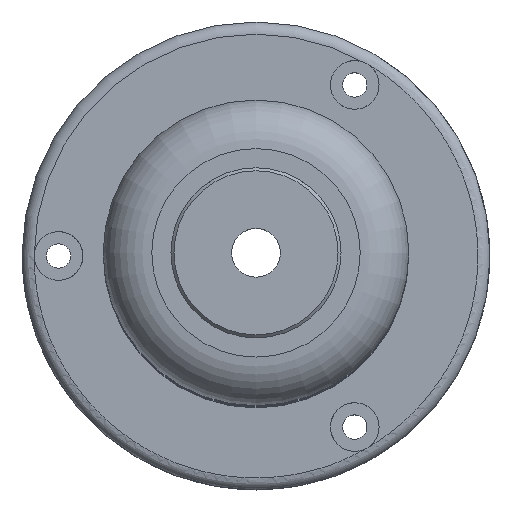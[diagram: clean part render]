
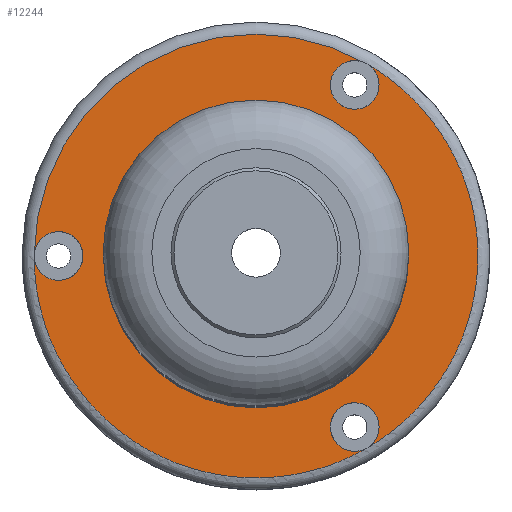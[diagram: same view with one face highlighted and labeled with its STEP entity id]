
A CAD part, top view. The second image highlights one B-rep face of the part: STEP entity #12244.
In plain terms, the highlighted planar face has unit normal (0, 0, -1).
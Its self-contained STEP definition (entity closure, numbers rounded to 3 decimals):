
#10380=PLANE('',#34924);
#12244=ADVANCED_FACE('',(#14332,#14333,#14334,#14335,#14336),#10380,.T.);
#14332=FACE_BOUND('',#14894,.T.);
#14333=FACE_BOUND('',#14895,.T.);
#14334=FACE_BOUND('',#14896,.T.);
#14335=FACE_BOUND('',#14897,.T.);
#14336=FACE_BOUND('',#14898,.T.);
#14894=EDGE_LOOP('',(#17368));
#14895=EDGE_LOOP('',(#17369));
#14896=EDGE_LOOP('',(#17370));
#14897=EDGE_LOOP('',(#17371));
#14898=EDGE_LOOP('',(#17372));
#17368=ORIENTED_EDGE('',*,*,#30036,.T.);
#17369=ORIENTED_EDGE('',*,*,#30037,.T.);
#17370=ORIENTED_EDGE('',*,*,#30038,.T.);
#17371=ORIENTED_EDGE('',*,*,#30039,.T.);
#17372=ORIENTED_EDGE('',*,*,#30026,.F.);
#26840=VERTEX_POINT('',#44833);
#26850=VERTEX_POINT('',#44987);
#26851=VERTEX_POINT('',#44989);
#26852=VERTEX_POINT('',#44991);
#26853=VERTEX_POINT('',#44993);
#30026=EDGE_CURVE('',#26840,#26840,#34767,.T.);
#30036=EDGE_CURVE('',#26850,#26850,#34775,.T.);
#30037=EDGE_CURVE('',#26851,#26851,#34776,.T.);
#30038=EDGE_CURVE('',#26852,#26852,#34777,.T.);
#30039=EDGE_CURVE('',#26853,#26853,#34778,.T.);
#34767=CIRCLE('',#34908,10.75);
#34775=CIRCLE('',#34920,2.);
#34776=CIRCLE('',#34921,2.);
#34777=CIRCLE('',#34922,2.);
#34778=CIRCLE('',#34923,38.);
#34908=AXIS2_PLACEMENT_3D('',#44832,#37001,#37002);
#34920=AXIS2_PLACEMENT_3D('',#44986,#37025,#37026);
#34921=AXIS2_PLACEMENT_3D('',#44988,#37027,#37028);
#34922=AXIS2_PLACEMENT_3D('',#44990,#37029,#37030);
#34923=AXIS2_PLACEMENT_3D('',#44992,#37031,#37032);
#34924=AXIS2_PLACEMENT_3D('',#44994,#37033,#37034);
#37001=DIRECTION('',(0.,0.,-1.));
#37002=DIRECTION('',(-1.,0.,0.));
#37025=DIRECTION('',(0.,0.,1.));
#37026=DIRECTION('',(1.,0.,0.));
#37027=DIRECTION('',(0.,0.,1.));
#37028=DIRECTION('',(1.,0.,0.));
#37029=DIRECTION('',(0.,0.,1.));
#37030=DIRECTION('',(1.,0.,0.));
#37031=DIRECTION('',(0.,0.,-1.));
#37032=DIRECTION('',(-1.,0.,0.));
#37033=DIRECTION('',(0.,0.,-1.));
#37034=DIRECTION('',(1.,0.,0.));
#44832=CARTESIAN_POINT('',(0.,50.,-90.5));
#44833=CARTESIAN_POINT('',(-10.75,50.,-90.5));
#44986=CARTESIAN_POINT('',(16.25,78.146,-90.5));
#44987=CARTESIAN_POINT('',(18.25,78.146,-90.5));
#44988=CARTESIAN_POINT('',(16.25,21.854,-90.5));
#44989=CARTESIAN_POINT('',(18.25,21.854,-90.5));
#44990=CARTESIAN_POINT('',(-32.5,50.,-90.5));
#44991=CARTESIAN_POINT('',(-30.5,50.,-90.5));
#44992=CARTESIAN_POINT('',(0.,50.,-90.5));
#44993=CARTESIAN_POINT('',(-38.,50.,-90.5));
#44994=CARTESIAN_POINT('',(0.,50.,-90.5));
